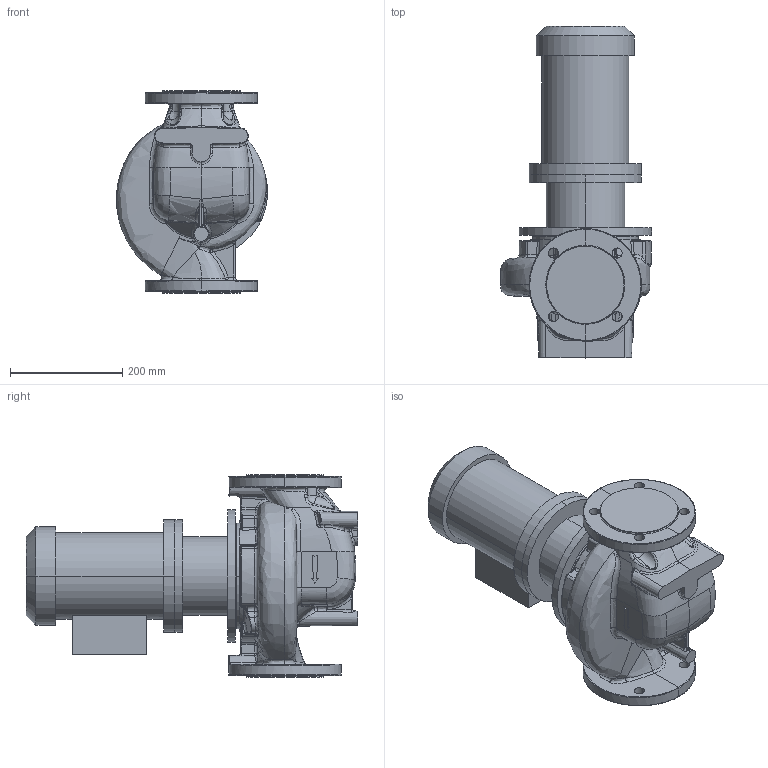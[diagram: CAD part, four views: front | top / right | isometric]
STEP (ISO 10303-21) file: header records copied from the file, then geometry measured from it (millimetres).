
FILE_DESCRIPTION (( 'STEP AP214' ), '1' );
FILE_NAME ('KRL 80-160-4-1,1.STEP', '2026-04-06T13:31:04', ( '' ), ( '' ), 'SwSTEP 2.0', 'SolidWorks 2016', '' );
FILE_SCHEMA (( 'AUTOMOTIVE_DESIGN' ));
Length unit declared in the file: millimetre
Products named in the file (1): KRL 80-160-4-1,1
Bounding box: 269.24 x 591.3 x 360 mm (x, y, z)
Volume: 18530349.4 mm3; surface area: 926227.9 mm2
Topology: 4 solids, 5 shells, 589 faces, 1479 edges, 888 vertices
Faces by surface type: bspline 319, cylinder 115, plane 96, cone 31, torus 16, sphere 12
Entity records: 59938 total; most frequent: CARTESIAN_POINT 42340, ORIENTED_EDGE 2896, DIRECTION 1510, EDGE_CURVE 1448, VERTEX_POINT 888, B_SPLINE_CURVE_WITH_KNOTS 707, AXIS2_PLACEMENT_3D 641, EDGE_LOOP 624
